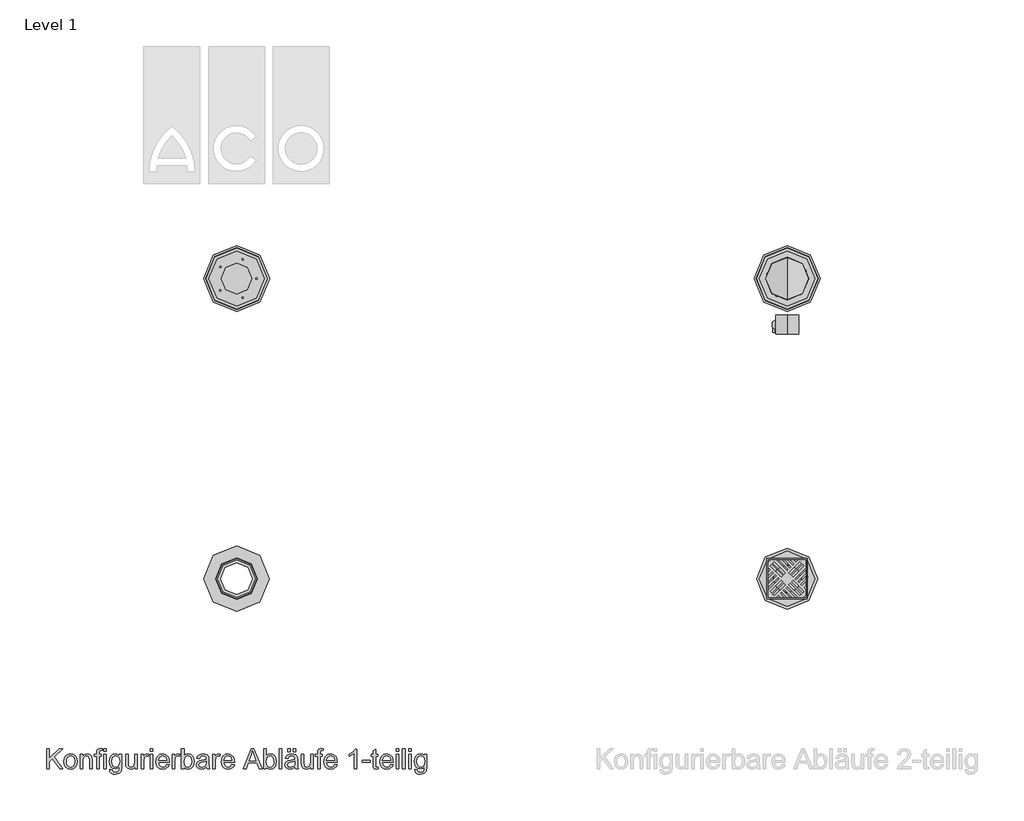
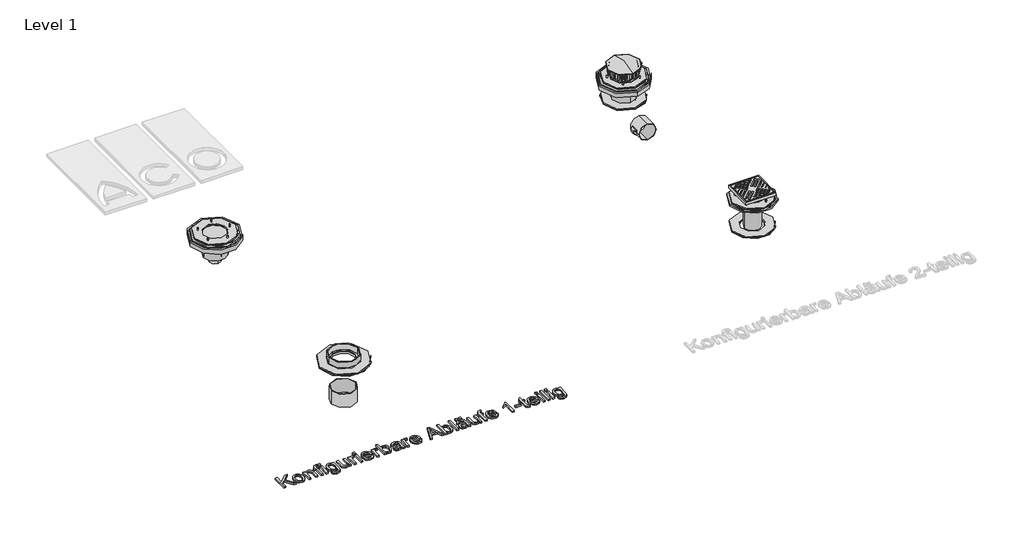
# One storey, part 1 of 2: 18 sanitary terminals, 2 unitary equipment elements, 1 proxy.
"""IFC4 building model written with IfcOpenShell, lengths in millimetres."""

from ifc_helpers import new_model, si_unit, origin, origin_with_axes, place, context, project, spatial, polyline, outline, extrude, transform, mapped, element, save
from components import dn100_9063cb63, dn100_e2e893b6, dn150_3a27d863, dn70_df0a8fda, std_nested_46976476, std_nested_8a7b0f66, std_nested_96159983, std_nested_c62c83a8, std_nested_7ef8eedc, std_nested_7d422cc5, std_nested_39a4419e, std_nested_35449f27, std_nested_05051040, std_nested_46505692, std_nested_20acca22, std_nested_3be34474

model = new_model("IFC4")

# Units and contexts
model_context = context("Model", 3, world=origin())
ifc_project = project(units=[si_unit("LENGTHUNIT", "METRE", prefix="MILLI")], contexts=[model_context])

# Site, building, storey
site = spatial("IfcSite", under=ifc_project)
building = spatial("IfcBuilding", under=site)
storey = spatial("IfcBuildingStorey", under=building, Name="Level 1", Elevation=0.0)

# Proxy
placement = place(None, origin())
element("IfcBuildingElementProxy", 1, Name="100mm ACO", ObjectType="100mm ACO", at=placement, inside=storey, context=model_context, shape_type="SweptSolid", body=[
    extrude(outline(polyline([(257.8703704, -700.0), (242.3321759, -700.0), (205.4108796, -648.8136574), (188.8888889, -664.8148148), (188.8888889, -700.0), (175.9259259, -700.0), (175.9259259, -600.0), (188.8888889, -600.0), (188.8888889, -647.8009259), (238.2523148, -600.0), (255.8449074, -600.0), (214.5833333, -639.9305556), (257.8703704, -700.0)])), origin_with_axes(), (0.0, 0.0, 1.0), 10.0),
    extrude(outline(polyline([(296.2673611, -625.9259259), (309.4437211, -628.3203125), (320.1533565, -635.5034722), (327.2605613, -647.0992477), (329.6296296, -662.7314815), (327.0652488, -681.0040509), (319.3721065, -692.9976852), (308.4671586, -699.6383102), (296.2673611, -701.8518519), (283.6769387, -699.5768229), (272.8732639, -692.7517361), (265.4405382, -680.9859664), (262.962963, -663.8888889), (265.3573495, -647.1715856), (272.5405093, -635.3298611), (283.2609954, -628.2769097), (296.2673611, -625.9259259)]), holes=[polyline([(296.2673611, -692.5925926), (305.0745081, -690.5852141), (311.4728009, -684.5630787), (316.6666667, -663.4259259), (315.198206, -651.1429398), (310.7928241, -642.3032407), (304.224537, -636.9646991), (296.2673611, -635.1851852), (288.1546586, -636.9900174), (281.640625, -642.4045139), (277.3546007, -651.3925058), (275.9259259, -663.9178241), (277.379919, -676.3997396), (281.7418981, -685.3732639), (288.28125, -690.7877604), (296.2673611, -692.5925926)])]), origin_with_axes(), (0.0, 0.0, 1.0), 10.0),
    extrude(outline(polyline([(403.7037037, -700.0), (390.7407407, -700.0), (390.7407407, -655.0347222), (386.8778935, -639.4386574), (376.1284722, -635.1851852), (366.1024306, -637.9050926), (359.3894676, -645.5729167), (357.4074074, -659.5775463), (357.4074074, -700.0), (344.4444444, -700.0), (344.4444444, -627.7777778), (355.5555556, -627.7777778), (355.5555556, -637.818287), (365.4513889, -628.8917824), (378.7037037, -625.9259259), (390.0752315, -627.9803241), (398.8715278, -634.1290509), (402.8790509, -642.8674769), (403.7037037, -655.4108796), (403.7037037, -700.0)])), origin_with_axes(), (0.0, 0.0, 1.0), 10.0),
    extrude(outline(polyline([(455.5555556, -599.1030093), (453.9641204, -607.4074074), (447.65625, -607.4074074), (441.3483796, -609.5341435), (438.8888889, -620.0520833), (438.8888889, -627.7777778), (450.0, -627.7777778), (450.0, -637.037037), (438.8888889, -637.037037), (438.8888889, -700.0), (425.9259259, -700.0), (425.9259259, -637.037037), (414.8148148, -637.037037), (414.8148148, -627.7777778), (425.9259259, -627.7777778), (425.9259259, -619.849537), (426.8952546, -609.8668981), (432.0023148, -601.7650463), (444.7627315, -598.1481481), (455.5555556, -599.1030093)])), origin_with_axes(), (0.0, 0.0, 1.0), 10.0),
    extrude(outline(polyline([(474.0740741, -612.962963), (461.1111111, -612.962963), (461.1111111, -600.0), (474.0740741, -600.0), (474.0740741, -612.962963)])), origin_with_axes(), (0.0, 0.0, 1.0), 10.0),
    extrude(outline(polyline([(474.0740741, -700.0), (461.1111111, -700.0), (461.1111111, -627.7777778), (474.0740741, -627.7777778), (474.0740741, -700.0)])), origin_with_axes(), (0.0, 0.0, 1.0), 10.0),
    extrude(outline(polyline([(551.8518519, -689.3518519), (548.7991898, -711.9936343), (537.9340278, -723.6255787), (519.2708333, -727.7777778), (508.0548322, -726.3708044), (498.8859954, -722.1498843), (492.7770544, -714.7243924), (490.7407407, -703.7037037), (503.7037037, -705.7581019), (508.275463, -715.3211806), (519.4733796, -718.5185185), (532.7835648, -714.8292824), (537.9484954, -705.8449074), (538.8888889, -691.2326389), (530.114294, -697.8081597), (519.2997685, -700.0), (506.9082755, -697.3885995), (497.2222222, -689.5543981), (490.9722222, -677.7416088), (488.8888889, -663.1944444), (490.8709491, -648.5532407), (496.8171296, -636.5740741), (506.2644676, -628.587963), (518.75, -625.9259259), (529.8249421, -628.3058449), (538.6284722, -635.4456019), (538.8888889, -627.7777778), (551.8518519, -627.7777778), (551.8518519, -689.3518519)]), holes=[polyline([(521.2384259, -690.7407407), (528.4505208, -689.134838), (534.8090278, -684.3171296), (539.2578125, -675.7233796), (540.7407407, -662.7893519), (539.3265336, -651.0018808), (535.083912, -642.3177083), (528.7579572, -636.968316), (521.09375, -635.1851852), (513.3716725, -637.0117187), (507.2193287, -642.4913194), (503.1937211, -651.1465567), (501.8518519, -662.5), (503.2588252, -675.2170139), (507.4797454, -683.9699074), (513.7333623, -689.0480324), (521.2384259, -690.7407407)])]), origin_with_axes(), (0.0, 0.0, 1.0), 10.0),
    extrude(outline(polyline([(629.6296296, -700.0), (618.5185185, -700.0), (618.5185185, -689.4965278), (608.275463, -698.7630208), (595.3125, -701.8518519), (581.1921296, -698.3362269), (572.5405093, -688.6574074), (570.3703704, -672.65625), (570.3703704, -627.7777778), (583.3333333, -627.7777778), (583.3333333, -668.75), (584.2303241, -682.8414352), (588.9178241, -689.84375), (597.9456019, -692.5925926), (610.6915509, -687.6736111), (615.1728877, -680.1215278), (616.6666667, -667.3032407), (616.6666667, -627.7777778), (629.6296296, -627.7777778), (629.6296296, -700.0)])), origin_with_axes(), (0.0, 0.0, 1.0), 10.0),
    extrude(outline(polyline([(687.037037, -628.7615741), (682.9861111, -637.037037), (674.4791667, -635.1851852), (668.6848958, -636.8127894), (664.4965278, -641.6956019), (661.1111111, -659.9247685), (661.1111111, -700.0), (648.1481481, -700.0), (648.1481481, -627.7777778), (659.2592593, -627.7777778), (659.2592593, -638.4837963), (666.1892361, -629.0653935), (674.6238426, -625.9259259), (687.037037, -628.7615741)])), origin_with_axes(), (0.0, 0.0, 1.0), 10.0),
    extrude(outline(polyline([(707.4074074, -612.962963), (694.4444444, -612.962963), (694.4444444, -600.0), (707.4074074, -600.0), (707.4074074, -612.962963)])), origin_with_axes(), (0.0, 0.0, 1.0), 10.0),
    extrude(outline(polyline([(707.4074074, -700.0), (694.4444444, -700.0), (694.4444444, -627.7777778), (707.4074074, -627.7777778), (707.4074074, -700.0)])), origin_with_axes(), (0.0, 0.0, 1.0), 10.0),
    extrude(outline(polyline([(788.8888889, -666.6666667), (735.1851852, -666.6666667), (737.2576678, -677.7922454), (741.9704861, -685.9375), (748.7521701, -690.9288194), (757.03125, -692.5925926), (768.7065972, -688.9033565), (775.9259259, -677.7777778), (788.8888889, -679.2824074), (784.5124421, -688.9033565), (777.5752315, -696.0069444), (768.3304398, -700.390625), (757.03125, -701.8518519), (742.4442998, -699.3453414), (731.4380787, -691.8258102), (724.5261863, -679.9660012), (722.2222222, -664.4386574), (724.4429977, -648.900463), (731.1053241, -636.6030093), (741.8041088, -628.5951968), (756.1342593, -625.9259259), (771.3541667, -629.3836806), (783.7818287, -641.1603009), (787.6121238, -651.6963252), (788.8888889, -666.6666667)]), holes=[polyline([(775.9259259, -657.4074074), (773.8425926, -647.2511574), (769.0972222, -640.3935185), (755.8159722, -635.1851852), (747.9600694, -636.7332176), (741.6377315, -641.3773148), (735.1851852, -657.4074074), (775.9259259, -657.4074074)])]), origin_with_axes(), (0.0, 0.0, 1.0), 10.0),
    extrude(outline(polyline([(842.5925926, -628.7615741), (838.5416667, -637.037037), (830.0347222, -635.1851852), (824.2404514, -636.8127894), (820.0520833, -641.6956019), (816.6666667, -659.9247685), (816.6666667, -700.0), (803.7037037, -700.0), (803.7037037, -627.7777778), (814.8148148, -627.7777778), (814.8148148, -638.4837963), (821.7447917, -629.0653935), (830.1793981, -625.9259259), (842.5925926, -628.7615741)])), origin_with_axes(), (0.0, 0.0, 1.0), 10.0),
    extrude(outline(polyline([(863.1365741, -634.9247685), (871.4988426, -628.1756366), (882.5810185, -625.9259259), (895.0050637, -628.4722222), (904.6730324, -636.1111111), (910.8904803, -647.8587963), (912.962963, -662.7314815), (910.6843171, -679.4668692), (903.8483796, -691.7679398), (893.9597801, -699.3308738), (882.5231481, -701.8518519), (871.5060764, -699.3778935), (863.2233796, -691.9560185), (862.962963, -700.0), (850.0, -700.0), (850.0, -600.0), (862.962963, -600.0), (863.1365741, -634.9247685)]), holes=[polyline([(881.3078704, -692.5925926), (888.7261285, -690.7009549), (894.7193287, -685.0260417), (898.6798322, -675.9295428), (900.0, -663.7731481), (895.1388889, -642.896412), (889.3518519, -637.1129919), (881.712963, -635.1851852), (874.0885417, -637.1744792), (868.1134259, -643.1423611), (862.962963, -663.28125), (865.1041667, -680.2372685), (871.556713, -688.9322917), (881.3078704, -692.5925926)])]), origin_with_axes(), (0.0, 0.0, 1.0), 10.0),
    extrude(outline(polyline([(990.7407407, -700.0), (977.7777778, -700.0), (974.0740741, -691.2615741), (961.5813079, -699.2042824), (948.119213, -701.8518519), (938.1329572, -700.4050926), (930.5121528, -696.0648148), (925.6835937, -689.3518519), (924.0740741, -680.787037), (925.6510417, -672.479022), (930.3819444, -665.7841435), (939.0118634, -660.8904803), (952.2858796, -657.9861111), (963.6284722, -656.25), (974.0740741, -653.7037037), (973.7413194, -645.6741898), (971.802662, -640.7986111), (966.6377315, -636.7332176), (957.0601852, -635.1851852), (944.9797454, -638.3246528), (938.8888889, -650.0), (925.9259259, -648.4085648), (929.4813368, -638.599537), (936.1545139, -631.568287), (945.9382234, -627.3365162), (958.8252315, -625.9259259), (978.0815972, -629.7887731), (985.6336806, -639.1059028), (987.037037, -653.1539352), (987.037037, -669.6759259), (987.5868056, -689.9305556), (990.7407407, -700.0)]), holes=[polyline([(974.0740741, -667.5925926), (974.0740741, -662.962963), (950.7957176, -668.287037), (940.4767072, -672.3451968), (937.037037, -680.5844907), (940.7407407, -689.2071759), (951.4178241, -692.5925926), (967.2309028, -686.9212963), (972.3632812, -679.2534722), (974.0740741, -667.5925926)])]), origin_with_axes(), (0.0, 0.0, 1.0), 10.0),
    extrude(outline(polyline([(1044.4444444, -628.7615741), (1040.3935185, -637.037037), (1031.8865741, -635.1851852), (1026.0923032, -636.8127894), (1021.9039352, -641.6956019), (1018.5185185, -659.9247685), (1018.5185185, -700.0), (1005.5555556, -700.0), (1005.5555556, -627.7777778), (1016.6666667, -627.7777778), (1016.6666667, -638.4837963), (1023.5966435, -629.0653935), (1032.03125, -625.9259259), (1044.4444444, -628.7615741)])), origin_with_axes(), (0.0, 0.0, 1.0), 10.0),
    extrude(outline(polyline([(1114.8148148, -666.6666667), (1061.1111111, -666.6666667), (1063.1835937, -677.7922454), (1067.896412, -685.9375), (1074.6780961, -690.9288194), (1082.9571759, -692.5925926), (1094.6325231, -688.9033565), (1101.8518519, -677.7777778), (1114.8148148, -679.2824074), (1110.4383681, -688.9033565), (1103.5011574, -696.0069444), (1094.2563657, -700.390625), (1082.9571759, -701.8518519), (1068.3702257, -699.3453414), (1057.3640046, -691.8258102), (1050.4521123, -679.9660012), (1048.1481481, -664.4386574), (1050.3689236, -648.900463), (1057.03125, -636.6030093), (1067.7300347, -628.5951968), (1082.0601852, -625.9259259), (1097.2800926, -629.3836806), (1109.7077546, -641.1603009), (1113.5380498, -651.6963252), (1114.8148148, -666.6666667)]), holes=[polyline([(1101.8518519, -657.4074074), (1099.7685185, -647.2511574), (1095.0231481, -640.3935185), (1081.7418981, -635.1851852), (1073.8859954, -636.7332176), (1067.5636574, -641.3773148), (1061.1111111, -657.4074074), (1101.8518519, -657.4074074)])]), origin_with_axes(), (0.0, 0.0, 1.0), 10.0),
    extrude(outline(polyline([(1252.3148148, -700.0), (1238.5127315, -700.0), (1226.5335648, -670.3703704), (1184.0856481, -670.3703704), (1172.5694444, -700.0), (1158.7962963, -700.0), (1197.65625, -600.0), (1211.8344907, -600.0), (1252.3148148, -700.0)]), holes=[polyline([(1222.0196759, -659.2592593), (1207.5954861, -622.5983796), (1204.6296296, -610.9375), (1199.9710648, -629.5138889), (1188.4259259, -659.2592593), (1222.0196759, -659.2592593)])]), origin_with_axes(), (0.0, 0.0, 1.0), 10.0),
    extrude(outline(polyline([(1274.2476852, -634.9247685), (1282.6099537, -628.1756366), (1293.6921296, -625.9259259), (1306.1161748, -628.4722222), (1315.7841435, -636.1111111), (1322.0015914, -647.8587963), (1324.0740741, -662.7314815), (1321.7954282, -679.4668692), (1314.9594907, -691.7679398), (1305.0708912, -699.3308738), (1293.6342593, -701.8518519), (1282.6171875, -699.3778935), (1274.3344907, -691.9560185), (1274.0740741, -700.0), (1261.1111111, -700.0), (1261.1111111, -600.0), (1274.0740741, -600.0), (1274.2476852, -634.9247685)]), holes=[polyline([(1292.4189815, -692.5925926), (1299.8372396, -690.7009549), (1305.8304398, -685.0260417), (1309.7909433, -675.9295428), (1311.1111111, -663.7731481), (1306.25, -642.896412), (1300.462963, -637.1129919), (1292.8240741, -635.1851852), (1285.1996528, -637.1744792), (1279.224537, -643.1423611), (1274.0740741, -663.28125), (1276.2152778, -680.2372685), (1282.6678241, -688.9322917), (1292.4189815, -692.5925926)])]), origin_with_axes(), (0.0, 0.0, 1.0), 10.0),
    extrude(outline(polyline([(1351.8518519, -700.0), (1338.8888889, -700.0), (1338.8888889, -600.0), (1351.8518519, -600.0), (1351.8518519, -700.0)])), origin_with_axes(), (0.0, 0.0, 1.0), 10.0),
    extrude(outline(polyline([(1394.4444444, -614.8148148), (1381.4814815, -614.8148148), (1381.4814815, -600.0), (1394.4444444, -600.0), (1394.4444444, -614.8148148)])), origin_with_axes(), (0.0, 0.0, 1.0), 10.0),
    extrude(outline(polyline([(1420.3703704, -614.8148148), (1407.4074074, -614.8148148), (1407.4074074, -600.0), (1420.3703704, -600.0), (1420.3703704, -614.8148148)])), origin_with_axes(), (0.0, 0.0, 1.0), 10.0),
    extrude(outline(polyline([(1433.3333333, -700.0), (1420.3703704, -700.0), (1416.6666667, -691.2615741), (1404.1739005, -699.2042824), (1390.7118056, -701.8518519), (1380.7255498, -700.4050926), (1373.1047454, -696.0648148), (1368.2761863, -689.3518519), (1366.6666667, -680.787037), (1368.2436343, -672.479022), (1372.974537, -665.7841435), (1381.604456, -660.8904803), (1394.8784722, -657.9861111), (1406.2210648, -656.25), (1416.6666667, -653.7037037), (1416.333912, -645.6741898), (1414.3952546, -640.7986111), (1409.2303241, -636.7332176), (1399.6527778, -635.1851852), (1387.572338, -638.3246528), (1381.4814815, -650.0), (1368.5185185, -648.4085648), (1372.0739294, -638.599537), (1378.7471065, -631.568287), (1388.530816, -627.3365162), (1401.4178241, -625.9259259), (1420.6741898, -629.7887731), (1428.2262731, -639.1059028), (1429.6296296, -653.1539352), (1429.6296296, -669.6759259), (1430.1793981, -689.9305556), (1433.3333333, -700.0)]), holes=[polyline([(1416.6666667, -667.5925926), (1416.6666667, -662.962963), (1393.3883102, -668.287037), (1383.0692998, -672.3451968), (1379.6296296, -680.5844907), (1383.3333333, -689.2071759), (1394.0104167, -692.5925926), (1409.8234954, -686.9212963), (1414.9558738, -679.2534722), (1416.6666667, -667.5925926)])]), origin_with_axes(), (0.0, 0.0, 1.0), 10.0),
    extrude(outline(polyline([(1507.4074074, -700.0), (1496.2962963, -700.0), (1496.2962963, -689.4965278), (1486.0532407, -698.7630208), (1473.0902778, -701.8518519), (1458.9699074, -698.3362269), (1450.318287, -688.6574074), (1448.1481481, -672.65625), (1448.1481481, -627.7777778), (1461.1111111, -627.7777778), (1461.1111111, -668.75), (1462.0081019, -682.8414352), (1466.6956019, -689.84375), (1475.7233796, -692.5925926), (1488.4693287, -687.6736111), (1492.9506655, -680.1215278), (1494.4444444, -667.3032407), (1494.4444444, -627.7777778), (1507.4074074, -627.7777778), (1507.4074074, -700.0)])), origin_with_axes(), (0.0, 0.0, 1.0), 10.0),
    extrude(outline(polyline([(1559.2592593, -599.1030093), (1557.6678241, -607.4074074), (1551.3599537, -607.4074074), (1545.0520833, -609.5341435), (1542.5925926, -620.0520833), (1542.5925926, -627.7777778), (1553.7037037, -627.7777778), (1553.7037037, -637.037037), (1542.5925926, -637.037037), (1542.5925926, -700.0), (1529.6296296, -700.0), (1529.6296296, -637.037037), (1518.5185185, -637.037037), (1518.5185185, -627.7777778), (1529.6296296, -627.7777778), (1529.6296296, -619.849537), (1530.5989583, -609.8668981), (1535.7060185, -601.7650463), (1548.4664352, -598.1481481), (1559.2592593, -599.1030093)])), origin_with_axes(), (0.0, 0.0, 1.0), 10.0),
    extrude(outline(polyline([(1627.7777778, -666.6666667), (1574.0740741, -666.6666667), (1576.1465567, -677.7922454), (1580.859375, -685.9375), (1587.641059, -690.9288194), (1595.9201389, -692.5925926), (1607.5954861, -688.9033565), (1614.8148148, -677.7777778), (1627.7777778, -679.2824074), (1623.401331, -688.9033565), (1616.4641204, -696.0069444), (1607.2193287, -700.390625), (1595.9201389, -701.8518519), (1581.3331887, -699.3453414), (1570.3269676, -691.8258102), (1563.4150752, -679.9660012), (1561.1111111, -664.4386574), (1563.3318866, -648.900463), (1569.994213, -636.6030093), (1580.6929977, -628.5951968), (1595.0231481, -625.9259259), (1610.2430556, -629.3836806), (1622.6707176, -641.1603009), (1626.5010127, -651.6963252), (1627.7777778, -666.6666667)]), holes=[polyline([(1614.8148148, -657.4074074), (1612.7314815, -647.2511574), (1607.9861111, -640.3935185), (1594.7048611, -635.1851852), (1586.8489583, -636.7332176), (1580.5266204, -641.3773148), (1574.0740741, -657.4074074), (1614.8148148, -657.4074074)])]), origin_with_axes(), (0.0, 0.0, 1.0), 10.0),
    extrude(outline(polyline([(1725.9259259, -700.0), (1712.962963, -700.0), (1712.962963, -622.2222222), (1688.8888889, -637.037037), (1688.8888889, -627.7777778), (1707.1614583, -616.0590278), (1718.5185185, -601.8518519), (1725.9259259, -601.8518519), (1725.9259259, -700.0)])), origin_with_axes(), (0.0, 0.0, 1.0), 10.0),
    extrude(outline(polyline([(1792.5925926, -666.6666667), (1753.7037037, -666.6666667), (1753.7037037, -657.4074074), (1792.5925926, -657.4074074), (1792.5925926, -666.6666667)])), origin_with_axes(), (0.0, 0.0, 1.0), 10.0),
    extrude(outline(polyline([(1833.3333333, -701.0127315), (1824.2476852, -701.8518519), (1812.6591435, -698.9728009), (1808.2175926, -691.6666667), (1807.4074074, -679.3402778), (1807.4074074, -637.037037), (1798.1481481, -637.037037), (1798.1481481, -627.7777778), (1807.4074074, -627.7777778), (1807.4074074, -609.4328704), (1820.3703704, -601.8518519), (1820.3703704, -627.7777778), (1831.4814815, -627.7777778), (1831.4814815, -637.037037), (1820.3703704, -637.037037), (1820.3703704, -681.9444444), (1821.412037, -690.162037), (1826.7071759, -692.5925926), (1831.7418981, -692.5925926), (1833.3333333, -701.0127315)])), origin_with_axes(), (0.0, 0.0, 1.0), 10.0),
    extrude(outline(polyline([(1907.4074074, -666.6666667), (1853.7037037, -666.6666667), (1855.7761863, -677.7922454), (1860.4890046, -685.9375), (1867.2706887, -690.9288194), (1875.5497685, -692.5925926), (1887.2251157, -688.9033565), (1894.4444444, -677.7777778), (1907.4074074, -679.2824074), (1903.0309606, -688.9033565), (1896.09375, -696.0069444), (1886.8489583, -700.390625), (1875.5497685, -701.8518519), (1860.9628183, -699.3453414), (1849.9565972, -691.8258102), (1843.0447049, -679.9660012), (1840.7407407, -664.4386574), (1842.9615162, -648.900463), (1849.6238426, -636.6030093), (1860.3226273, -628.5951968), (1874.6527778, -625.9259259), (1889.8726852, -629.3836806), (1902.3003472, -641.1603009), (1906.1306424, -651.6963252), (1907.4074074, -666.6666667)]), holes=[polyline([(1894.4444444, -657.4074074), (1892.3611111, -647.2511574), (1887.6157407, -640.3935185), (1874.3344907, -635.1851852), (1866.478588, -636.7332176), (1860.15625, -641.3773148), (1853.7037037, -657.4074074), (1894.4444444, -657.4074074)])]), origin_with_axes(), (0.0, 0.0, 1.0), 10.0),
    extrude(outline(polyline([(1935.1851852, -612.962963), (1922.2222222, -612.962963), (1922.2222222, -600.0), (1935.1851852, -600.0), (1935.1851852, -612.962963)])), origin_with_axes(), (0.0, 0.0, 1.0), 10.0),
    extrude(outline(polyline([(1935.1851852, -700.0), (1922.2222222, -700.0), (1922.2222222, -627.7777778), (1935.1851852, -627.7777778), (1935.1851852, -700.0)])), origin_with_axes(), (0.0, 0.0, 1.0), 10.0),
    extrude(outline(polyline([(1966.6666667, -700.0), (1953.7037037, -700.0), (1953.7037037, -600.0), (1966.6666667, -600.0), (1966.6666667, -700.0)])), origin_with_axes(), (0.0, 0.0, 1.0), 10.0),
    extrude(outline(polyline([(1998.1481481, -612.962963), (1985.1851852, -612.962963), (1985.1851852, -600.0), (1998.1481481, -600.0), (1998.1481481, -612.962963)])), origin_with_axes(), (0.0, 0.0, 1.0), 10.0),
    extrude(outline(polyline([(1998.1481481, -700.0), (1985.1851852, -700.0), (1985.1851852, -627.7777778), (1998.1481481, -627.7777778), (1998.1481481, -700.0)])), origin_with_axes(), (0.0, 0.0, 1.0), 10.0),
    extrude(outline(polyline([(2075.9259259, -689.3518519), (2072.8732639, -711.9936343), (2062.0081019, -723.6255787), (2043.3449074, -727.7777778), (2032.1289062, -726.3708044), (2022.9600694, -722.1498843), (2016.8511285, -714.7243924), (2014.8148148, -703.7037037), (2027.7777778, -705.7581019), (2032.349537, -715.3211806), (2043.5474537, -718.5185185), (2056.8576389, -714.8292824), (2062.0225694, -705.8449074), (2062.962963, -691.2326389), (2054.1883681, -697.8081597), (2043.3738426, -700.0), (2030.9823495, -697.3885995), (2021.2962963, -689.5543981), (2015.0462963, -677.7416088), (2012.962963, -663.1944444), (2014.9450231, -648.5532407), (2020.8912037, -636.5740741), (2030.3385417, -628.587963), (2042.8240741, -625.9259259), (2053.8990162, -628.3058449), (2062.7025463, -635.4456019), (2062.962963, -627.7777778), (2075.9259259, -627.7777778), (2075.9259259, -689.3518519)]), holes=[polyline([(2045.3125, -690.7407407), (2052.5245949, -689.134838), (2058.8831019, -684.3171296), (2063.3318866, -675.7233796), (2064.8148148, -662.7893519), (2063.4006076, -651.0018808), (2059.1579861, -642.3177083), (2052.8320312, -636.968316), (2045.1678241, -635.1851852), (2037.4457465, -637.0117187), (2031.2934028, -642.4913194), (2027.2677951, -651.1465567), (2025.9259259, -662.5), (2027.3328993, -675.2170139), (2031.5538194, -683.9699074), (2037.8074363, -689.0480324), (2045.3125, -690.7407407)])]), origin_with_axes(), (0.0, 0.0, 1.0), 10.0),
])

# Sanitary terminals
dn100_shape = dn100_9063cb63(model_context)
element("IfcSanitaryTerminal", 2, ObjectType="PF_GEN_configurable gully double body Passavant Spin_ACO : DN100", at=placement, inside=storey, context=model_context, shape_type="MappedRepresentation", body=[
    mapped(dn100_shape, transform((3875.0, 1750.0, 0.0), x_axis=(0.0, 1.0000000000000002, 0.0), y_axis=(-1.0000000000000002, 0.0, 0.0), z_axis=(0.0, 0.0, 1.0))),
])
dn100_2_shape = dn100_e2e893b6(model_context)
element("IfcSanitaryTerminal", 3, ObjectType="PF_GEN_configurable gully double body Passavant Spin_ACO : DN100", at=placement, inside=storey, context=model_context, shape_type="MappedRepresentation", body=[
    mapped(dn100_2_shape, transform((3875.0, 250.0, 0.0), x_axis=(1.0, 0.0, 0.0), y_axis=(0.0, 1.0, 0.0), z_axis=(0.0, 0.0, 1.0))),
])
dn150_shape = dn150_3a27d863(model_context)
element("IfcSanitaryTerminal", 4, ObjectType="PF_GEN_configurable gully single body Passavant Spin_ACO : DN150", at=placement, inside=storey, context=model_context, shape_type="MappedRepresentation", body=[
    mapped(dn150_shape, transform((1125.0, 250.0, 0.0), x_axis=(1.0, 0.0, 0.0), y_axis=(0.0, 1.0, 0.0), z_axis=(0.0, 0.0, 1.0))),
])
dn70_shape = dn70_df0a8fda(model_context)
element("IfcSanitaryTerminal", 5, ObjectType="PF_GEN_configurable gully single body Passavant Spin_ACO : DN70", at=placement, inside=storey, context=model_context, shape_type="MappedRepresentation", body=[
    mapped(dn70_shape, transform((1125.0, 1750.0, 0.0), x_axis=(1.0, 0.0, 0.0), y_axis=(0.0, 1.0, 0.0), z_axis=(0.0, 0.0, 1.0))),
])
std_nested_shape = std_nested_46976476(model_context)
element("IfcSanitaryTerminal", 6, ObjectType="ZZZ_do not use_PF_GEN_fit-in for Passavant Spin_ACO : std (nested)", at=placement, inside=storey, context=model_context, shape_type="MappedRepresentation", body=[
    mapped(std_nested_shape, transform((1125.0, 1750.0, 0.0), x_axis=(1.0, 0.0, 0.0), y_axis=(0.0, 1.0, 0.0), z_axis=(0.0, 0.0, 1.0))),
])
std_nested_2_shape = std_nested_8a7b0f66(model_context)
element("IfcSanitaryTerminal", 7, ObjectType="ZZZ_do not use_PF_CI_cover for Passavant Spin 200x200 M125_ACO : std (nested)", at=placement, inside=storey, context=model_context, shape_type="MappedRepresentation", body=[
    mapped(std_nested_2_shape, transform((3875.0, 250.0, 231.0), x_axis=(1.0, 0.0, 0.0), y_axis=(0.0, 1.0, 0.0), z_axis=(0.0, 0.0, 1.0))),
])
std_nested_3_shape = std_nested_96159983(model_context)
element("IfcSanitaryTerminal", 8, ObjectType="ZZZ_do not use_PF_CI_lower section for Passavant Spin_ACO : std (nested)", at=placement, inside=storey, context=model_context, shape_type="MappedRepresentation", body=[
    mapped(std_nested_3_shape, transform((1125.0, 1750.0, 0.0), x_axis=(1.0, 0.0, 0.0), y_axis=(0.0, 1.0, 0.0), z_axis=(0.0, 0.0, 1.0))),
])
std_nested_4_shape = std_nested_c62c83a8(model_context)
element("IfcSanitaryTerminal", 9, ObjectType="ZZZ_do not use_PF_GEN_flange seal for Passavant Spin_ACO : std (nested)", at=placement, inside=storey, context=model_context, shape_type="MappedRepresentation", body=[
    mapped(std_nested_4_shape, transform((3875.0, 250.0, 0.0), x_axis=(1.0, 0.0, 0.0), y_axis=(0.0, 1.0, 0.0), z_axis=(0.0, 0.0, 1.0))),
])
element("IfcSanitaryTerminal", 10, ObjectType="ZZZ_do not use_PF_GEN_flange seal for Passavant Spin_ACO : std (nested)", at=placement, inside=storey, context=model_context, shape_type="MappedRepresentation", body=[
    mapped(std_nested_4_shape, transform((3875.0, 250.0, 200.0), x_axis=(1.0, 0.0, 0.0), y_axis=(0.0, 1.0, 0.0), z_axis=(0.0, 0.0, 1.0))),
])
element("IfcSanitaryTerminal", 11, ObjectType="ZZZ_do not use_PF_GEN_flange seal for Passavant Spin_ACO : std (nested)", at=placement, inside=storey, context=model_context, shape_type="MappedRepresentation", body=[
    mapped(std_nested_4_shape, transform((3875.0, 1750.0, 0.0), x_axis=(0.0, 1.0000000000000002, 0.0), y_axis=(-1.0000000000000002, 0.0, 0.0), z_axis=(0.0, 0.0, 1.0))),
])
element("IfcSanitaryTerminal", 12, ObjectType="ZZZ_do not use_PF_GEN_flange seal for Passavant Spin_ACO : std (nested)", at=placement, inside=storey, context=model_context, shape_type="MappedRepresentation", body=[
    mapped(std_nested_4_shape, transform((3875.0, 1750.0, 150.0), x_axis=(0.0, 1.0000000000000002, 0.0), y_axis=(-1.0000000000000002, 0.0, 0.0), z_axis=(0.0, 0.0, 1.0))),
])
element("IfcSanitaryTerminal", 13, ObjectType="ZZZ_do not use_PF_GEN_flange seal for Passavant Spin_ACO : std (nested)", at=placement, inside=storey, context=model_context, shape_type="MappedRepresentation", body=[
    mapped(std_nested_4_shape, transform((1125.0, 1750.0, 0.0), x_axis=(1.0, 0.0, 0.0), y_axis=(0.0, 1.0, 0.0), z_axis=(0.0, 0.0, 1.0))),
])
std_nested_5_shape = std_nested_7ef8eedc(model_context)
element("IfcSanitaryTerminal", 14, ObjectType="ZZZ_do_not_use_PF_CI_pipe with ball grating for emergency overflow for Passavant Spin_ACO : std (nested)", at=placement, inside=storey, context=model_context, shape_type="MappedRepresentation", body=[
    mapped(std_nested_5_shape, transform((3875.0, 1750.0, 161.0), x_axis=(0.0, 1.0000000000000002, 0.0), y_axis=(-1.0000000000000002, 0.0, 0.0), z_axis=(0.0, 0.0, 1.0))),
])
std_nested_6_shape = std_nested_7d422cc5(model_context)
element("IfcSanitaryTerminal", 15, ObjectType="ZZZ_do not use_PF_GEN_flange seal for Passavant Spin_ACO : std (nested)", at=placement, inside=storey, context=model_context, shape_type="MappedRepresentation", body=[
    mapped(std_nested_6_shape, transform((1125.0, 250.0, 0.0), x_axis=(1.0, 0.0, 0.0), y_axis=(0.0, 1.0, 0.0), z_axis=(0.0, 0.0, 1.0))),
])
std_nested_7_shape = std_nested_39a4419e(model_context)
element("IfcSanitaryTerminal", 16, ObjectType="ZZZ_do not use_PF_CI_extension ring for Passavant Spin_ACO : std (nested)", at=placement, inside=storey, context=model_context, shape_type="MappedRepresentation", body=[
    mapped(std_nested_7_shape, transform((1125.0, 250.0, 56.0), x_axis=(1.0, 0.0, 0.0), y_axis=(0.0, 1.0, 0.0), z_axis=(0.0, 0.0, 1.0))),
])
std_nested_8_shape = std_nested_35449f27(model_context)
element("IfcSanitaryTerminal", 17, ObjectType="ZZZ_do not use_PF_CI_upper part for Passavant Spin_ACO : std (nested)", at=placement, inside=storey, context=model_context, shape_type="MappedRepresentation", body=[
    mapped(std_nested_8_shape, transform((3875.0, 250.0, 200.0), x_axis=(1.0, 0.0, 0.0), y_axis=(0.0, 1.0, 0.0), z_axis=(0.0, 0.0, 1.0))),
])
std_nested_9_shape = std_nested_05051040(model_context)
element("IfcSanitaryTerminal", 18, ObjectType="ZZZ_do not use_PF_CI_upper part for Passavant Spin_ACO : std (nested)", at=placement, inside=storey, context=model_context, shape_type="MappedRepresentation", body=[
    mapped(std_nested_9_shape, transform((3875.0, 1750.0, 150.0), x_axis=(0.0, 1.0000000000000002, 0.0), y_axis=(-1.0000000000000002, 0.0, 0.0), z_axis=(0.0, 0.0, 1.0))),
])
std_nested_10_shape = std_nested_46505692(model_context)
element("IfcSanitaryTerminal", 19, ObjectType="ZZZ_do not use_PF_PU_insulation for upper part Passavant Spin_ACO : std (nested)", at=placement, inside=storey, context=model_context, shape_type="MappedRepresentation", body=[
    mapped(std_nested_10_shape, transform((3875.0, 1750.0, 150.0), x_axis=(0.0, 1.0000000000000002, 0.0), y_axis=(-1.0000000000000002, 0.0, 0.0), z_axis=(0.0, 0.0, 1.0))),
])

# Unitary equipment
std_nested_11_shape = std_nested_20acca22(model_context)
element("IfcUnitaryEquipment", 20, ObjectType="ZZZ_do not use_ME_GEN_flat roof heating_ACO : std (nested)", at=placement, inside=storey, context=model_context, shape_type="MappedRepresentation", body=[
    mapped(std_nested_11_shape, transform((3875.0, 1472.5, -75.5), x_axis=(0.0, 0.0, -1.0), y_axis=(1.0000000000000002, 0.0, 0.0), z_axis=(0.0, -1.0000000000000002, 0.0))),
])
std_nested_12_shape = std_nested_3be34474(model_context)
element("IfcUnitaryEquipment", 21, ObjectType="ZZZ_do not use_ME_GEN_flat roof heating_ACO : std (nested)", at=placement, inside=storey, context=model_context, shape_type="MappedRepresentation", body=[
    mapped(std_nested_12_shape, transform((1125.0, 250.0, -277.5), x_axis=(1.0, 0.0, 0.0), y_axis=(0.0, -1.0, 0.0), z_axis=(0.0, 0.0, -1.0))),
])

save(model, "model.ifc")
